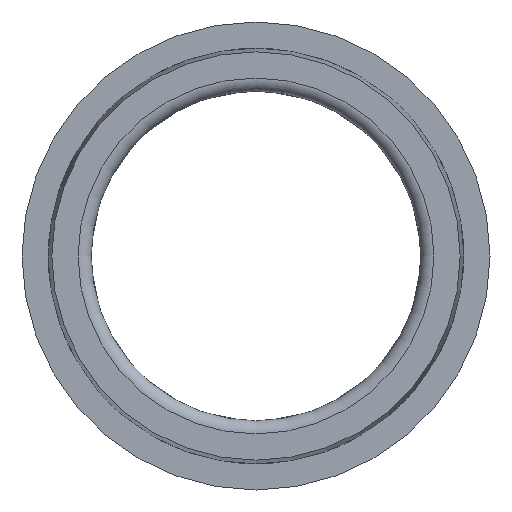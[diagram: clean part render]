
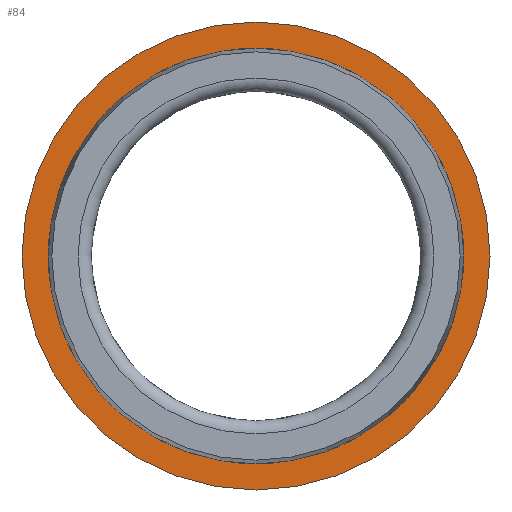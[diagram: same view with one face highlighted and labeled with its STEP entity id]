
A CAD part, front view. The second image highlights one B-rep face of the part: STEP entity #84.
In plain terms, the highlighted planar face has unit normal (0, -1, 0).
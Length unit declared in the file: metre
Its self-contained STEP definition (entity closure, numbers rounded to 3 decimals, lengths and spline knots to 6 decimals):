
#84 = ADVANCED_FACE( '', ( #255, #256 ), #257, .F. );
#255 = FACE_BOUND( '', #528, .T. );
#256 = FACE_OUTER_BOUND( '', #529, .T. );
#257 = PLANE( '', #530 );
#528 = EDGE_LOOP( '', ( #815 ) );
#529 = EDGE_LOOP( '', ( #816 ) );
#530 = AXIS2_PLACEMENT_3D( '', #817, #818, #819 );
#815 = ORIENTED_EDGE( '', *, *, #1176, .F. );
#816 = ORIENTED_EDGE( '', *, *, #1178, .T. );
#817 = CARTESIAN_POINT( '', ( -0.0355, 0.056, 0. ) );
#818 = DIRECTION( '', ( 0., 1., 0. ) );
#819 = DIRECTION( '', ( 0., 0., 1. ) );
#1176 = EDGE_CURVE( '', #1384, #1384, #1385, .T. );
#1178 = EDGE_CURVE( '', #1388, #1388, #1389, .T. );
#1384 = VERTEX_POINT( '', #7166 );
#1385 = CIRCLE( '', #7167, 0.0315 );
#1388 = VERTEX_POINT( '', #7170 );
#1389 = CIRCLE( '', #7171, 0.0355 );
#7166 = CARTESIAN_POINT( '', ( 0., 0.056, -0.0315 ) );
#7167 = AXIS2_PLACEMENT_3D( '', #7193, #7194, #7195 );
#7170 = CARTESIAN_POINT( '', ( 0., 0.056, -0.0355 ) );
#7171 = AXIS2_PLACEMENT_3D( '', #7199, #7200, #7201 );
#7193 = CARTESIAN_POINT( '', ( 0., 0.056, 0. ) );
#7194 = DIRECTION( '', ( 0., -1., 0. ) );
#7195 = DIRECTION( '', ( 0., 0., -1. ) );
#7199 = CARTESIAN_POINT( '', ( 0., 0.056, 0. ) );
#7200 = DIRECTION( '', ( 0., -1., 0. ) );
#7201 = DIRECTION( '', ( 0., 0., -1. ) );
